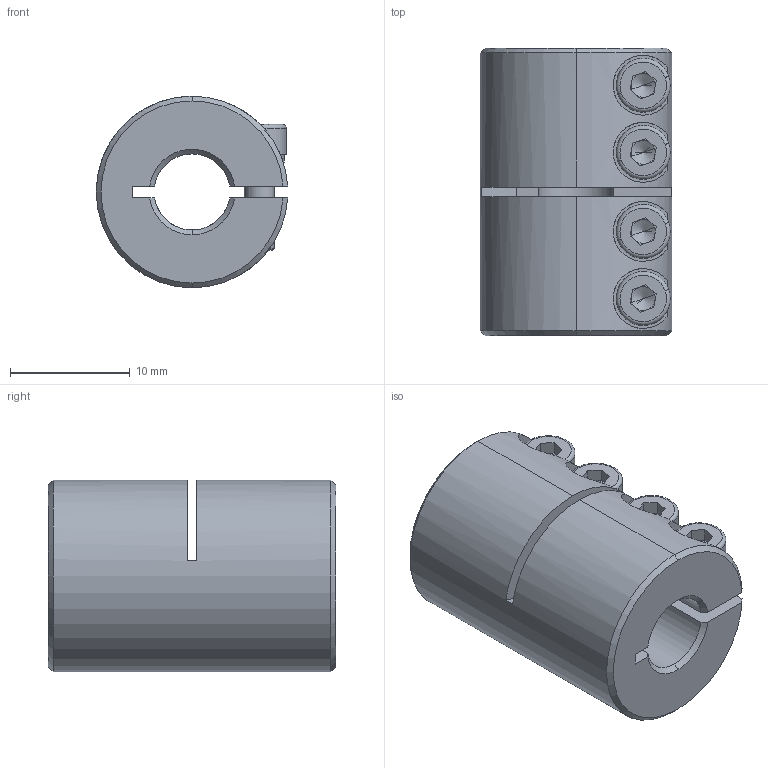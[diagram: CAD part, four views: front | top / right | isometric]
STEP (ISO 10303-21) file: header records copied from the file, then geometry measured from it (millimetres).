
FILE_DESCRIPTION (( 'STEP AP203' ), '1' );
FILE_NAME ('LL-B-D16L24-6.35-6.35.STEP', '2021-11-03T05:06:58', ( '' ), ( '' ), 'SwSTEP 2.0', 'SolidWorks 2018', '' );
FILE_SCHEMA (( 'CONFIG_CONTROL_DESIGN' ));
Length unit declared in the file: millimetre
Products named in the file (1): LL-B-D16L24-6.35-6.35
Bounding box: 15.98 x 24 x 16 mm (x, y, z)
Volume: 3768.5 mm3; surface area: 2925 mm2
Topology: 1 solids, 1 shells, 200 faces, 513 edges, 319 vertices
Faces by surface type: plane 90, cylinder 74, cone 28, torus 8
Entity records: 6481 total; most frequent: CARTESIAN_POINT 1493, DIRECTION 1074, ORIENTED_EDGE 1010, EDGE_CURVE 505, AXIS2_PLACEMENT_3D 420, VERTEX_POINT 319, LINE 234, VECTOR 234
